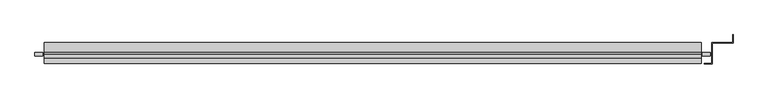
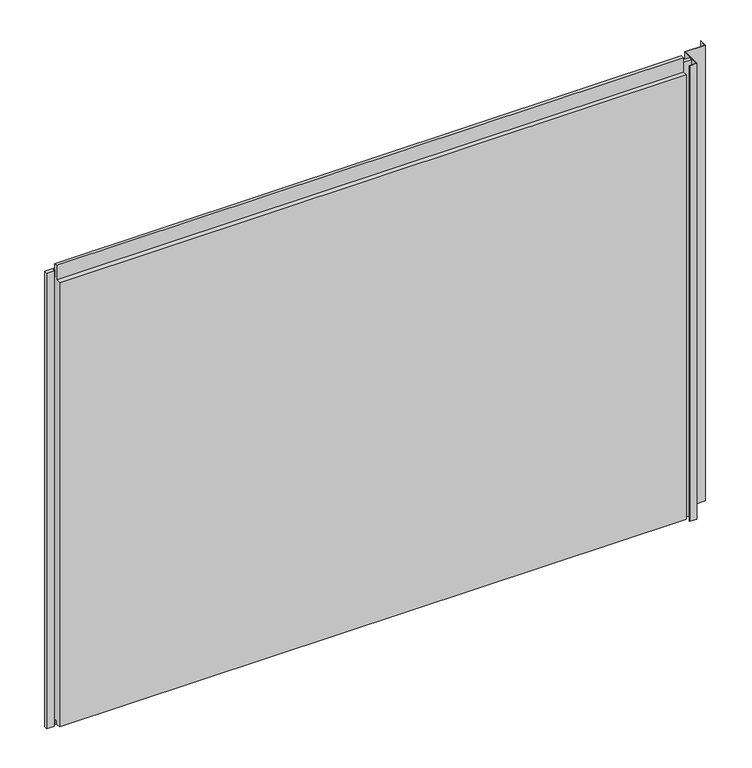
"""IFC4 building model written with IfcOpenShell, lengths in millimetres: plate geometry, Trimo_Qbiss Screen_Normal Panel-HORIZONTAL : HR - B."""

from ifc_helpers import new_model, si_unit, frame, origin, place, context, project, spatial, polyline, outline, extrude, source, transform, mapped, element, save


def plate_b3fd9b4b(model_context):
    return source(origin(), model_context, "Body", "SweptSolid", [
        extrude(outline(polyline([(750.0, 50.0), (750.0, 100.0), (800.0, 100.0), (800.0, 118.5), (800.8, 118.5), (800.8, 99.2), (750.8, 99.2), (750.8, 49.2), (732.5, 49.2), (732.5, 50.0), (750.0, 50.0)])), frame((0.0, 0.0, -1.0), z_axis=(0.0, 0.0, 1.0), x_axis=(1.0, 0.0, 0.0)), (0.0, 0.0, 1.0), 1200.0),
        extrude(outline(polyline([(-840.5, 76.5978162), (-840.5, 67.8978162), (-859.5, 67.8978162), (-859.5, 76.5978162), (-840.5, 76.5978162)])), frame((0.0, 0.0, -1.0), z_axis=(0.0, 0.0, 1.0), x_axis=(1.0, 0.0, 0.0)), (0.0, 0.0, 1.0), 1200.0),
        extrude(outline(polyline([(728.0, 67.8978162), (728.0, 76.5978162), (747.0, 76.5978162), (747.0, 67.8978162), (728.0, 67.8978162)])), frame((0.0, 0.0, -1.0), z_axis=(0.0, 0.0, 1.0), x_axis=(1.0, 0.0, 0.0)), (0.0, 0.0, 1.0), 1200.0),
        extrude(outline(polyline([(725.0, 76.0), (725.0, 71.0), (-837.5, 71.0), (-837.5, 76.0), (725.0, 76.0)])), frame((0.0, 0.0, 1178.0), z_axis=(0.0, 0.0, 1.0), x_axis=(1.0, 0.0, 0.0)), (0.0, 0.0, 1.0), 21.0),
        extrude(outline(polyline([(71.0, 1177.0), (100.0, 1177.0), (100.0, 0.0), (72.0, 0.0), (72.0, 15.5), (62.0, 15.5), (62.0, 7.0), (50.0, 7.0), (50.0, 1177.0), (63.0, 1177.0), (63.0, 1214.5), (71.0, 1214.5), (71.0, 1177.0)])), frame((-837.5, 0.0, 0.0), z_axis=(1.0, 0.0, 0.0), x_axis=(0.0, 1.0, 0.0)), (0.0, 0.0, 1.0), 1562.5),
    ])


if __name__ == "__main__":
    model = new_model("IFC4")
    model_context = context("Model", 3, world=origin())
    ifc_project = project(units=[si_unit("LENGTHUNIT", "METRE", prefix="MILLI")], contexts=[model_context])
    site = spatial("IfcSite", under=ifc_project)
    building = spatial("IfcBuilding", under=site)
    placement = place(None, origin())
    plate_shape = plate_b3fd9b4b(model_context)
    element("IfcPlate", 1, ObjectType="Trimo_Qbiss Screen_Normal Panel-HORIZONTAL : HR - B", at=placement, inside=building, context=model_context, shape_type="MappedRepresentation", body=[
        mapped(plate_shape, transform((0.0, 0.0, 0.0), x_axis=(1.0, 0.0, 0.0), y_axis=(0.0, 1.0, 0.0), z_axis=(0.0, 0.0, 1.0))),
    ])
    save(model, "model.ifc")
